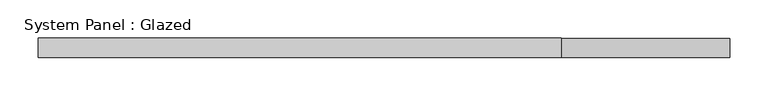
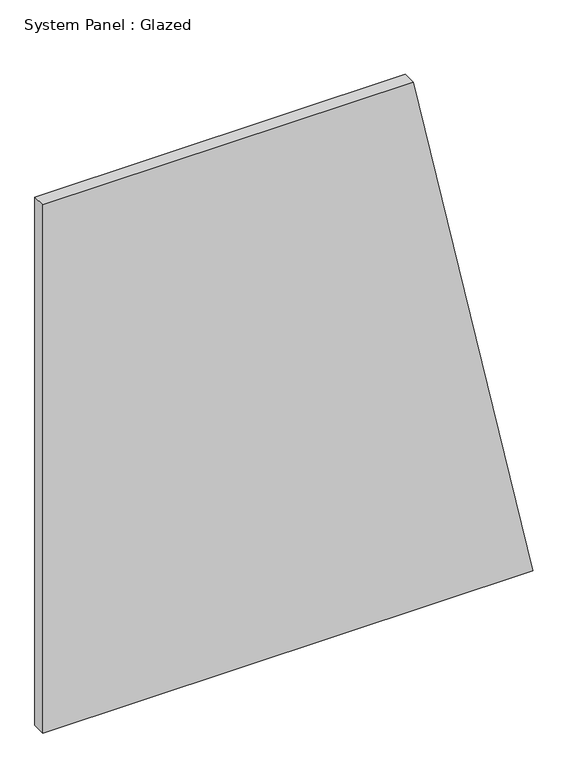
"""IFC4 building model written with IfcOpenShell, lengths in millimetres: plate geometry, System Panel : Glazed."""

from ifc_helpers import new_model, si_unit, frame, origin, place, context, project, spatial, polyline, outline, extrude, source, transform, mapped, element, save


def system_panel_glazed_8f3f999c(model_context):
    return source(origin(), model_context, "Body", "SweptSolid", [
        extrude(outline(polyline([(0.0, -449.5877923), (0.0, 449.5877923), (1025.0, 230.4008898), (1025.0, -449.5877923), (0.0, -449.5877923)])), frame((0.0, -49.5, 0.0), z_axis=(0.0, 1.0, 0.0), x_axis=(0.0, 0.0, 1.0)), (0.0, 0.0, 1.0), 25.0),
    ])


if __name__ == "__main__":
    model = new_model("IFC4")
    model_context = context("Model", 3, world=origin())
    ifc_project = project(units=[si_unit("LENGTHUNIT", "METRE", prefix="MILLI")], contexts=[model_context])
    site = spatial("IfcSite", under=ifc_project)
    building = spatial("IfcBuilding", under=site)
    placement = place(None, origin())
    system_panel_glazed_shape = system_panel_glazed_8f3f999c(model_context)
    element("IfcPlate", 1, ObjectType="System Panel : Glazed", at=placement, inside=building, context=model_context, shape_type="MappedRepresentation", body=[
        mapped(system_panel_glazed_shape, transform((0.0, 0.0, 0.0), x_axis=(1.0, 0.0, 0.0), y_axis=(0.0, 1.0, 0.0), z_axis=(0.0, 0.0, 1.0))),
    ])
    save(model, "model.ifc")
